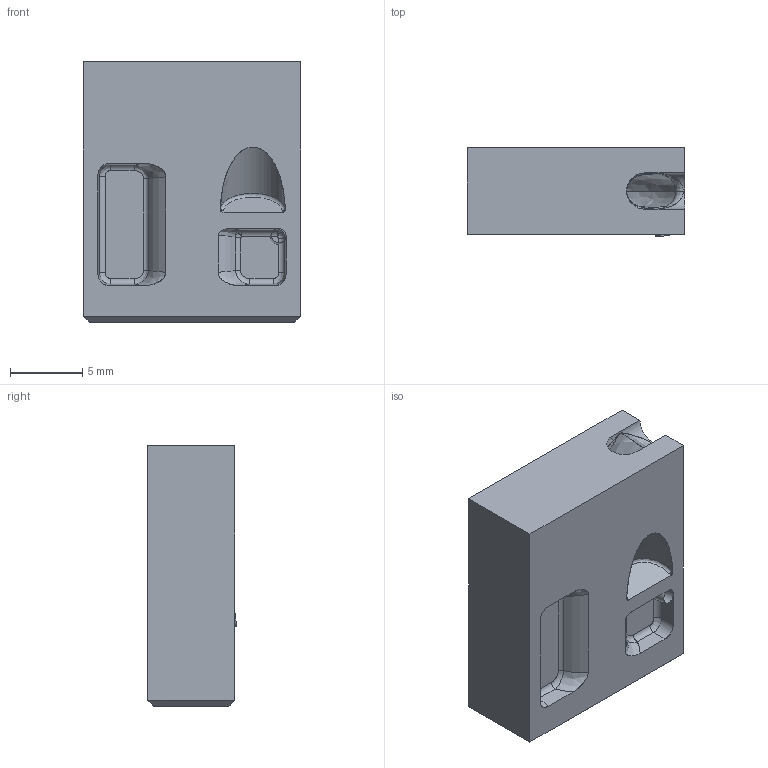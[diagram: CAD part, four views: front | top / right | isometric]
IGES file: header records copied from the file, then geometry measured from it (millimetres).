
Start section: START RECORD GO HERE.
Global section: file name: tgcs.igs; native system: DASSAULT SYSTEMES CATIA V5 R20 - www.3ds.com; preprocessor: CATIA Version 5 Release 20 ; author: Utente; organization: NB04-ASUS; date: 20210304.200752; units: millimetre
Bounding box: 15 x 6.11 x 18 mm (x, y, z)
Surface area: 1317.8 mm2 (no closed solid volume)
Topology: 0 solids, 0 shells, 133 faces, 819 edges, 812 vertices
Faces by surface type: revolution 62, bspline 38, plane 33
